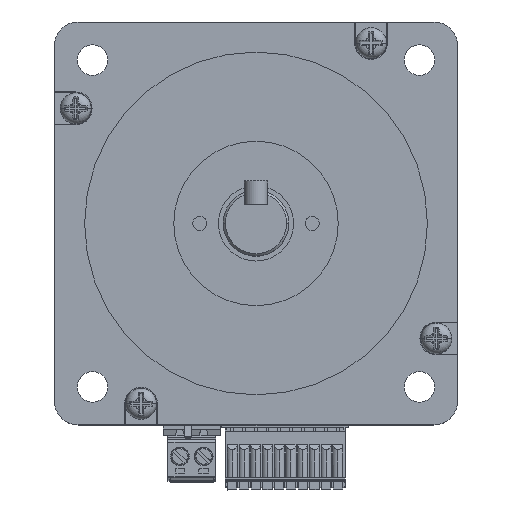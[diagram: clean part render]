
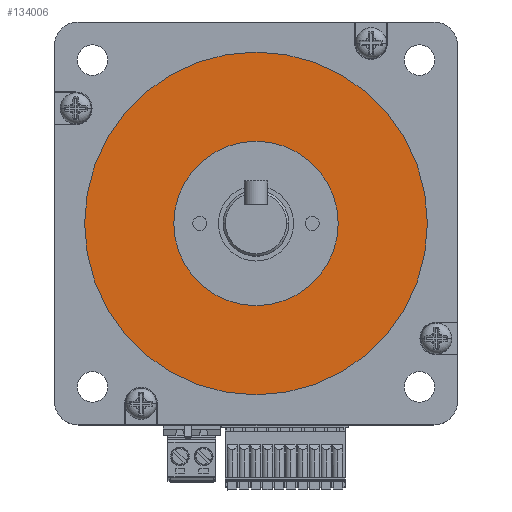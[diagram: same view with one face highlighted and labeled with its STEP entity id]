
A CAD part, top view. The second image highlights one B-rep face of the part: STEP entity #134006.
In plain terms, the highlighted planar face has unit normal (0, 0, 1).
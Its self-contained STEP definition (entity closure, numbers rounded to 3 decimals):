
#2081 = VERTEX_POINT ( 'NONE', #263754 ) ;
#5874 = CARTESIAN_POINT ( 'NONE',  ( -17.5, 0., 1.6 ) ) ;
#12258 = CARTESIAN_POINT ( 'NONE',  ( -36.5, 0., 1.6 ) ) ;
#13885 = CARTESIAN_POINT ( 'NONE',  ( 0., 0., 1.6 ) ) ;
#27235 = CARTESIAN_POINT ( 'NONE',  ( 0., 0., 1.6 ) ) ;
#30759 = DIRECTION ( 'NONE',  ( 0., 0., 1. ) ) ;
#58477 = CIRCLE ( 'NONE', #202591, 36.5 ) ;
#59473 = VERTEX_POINT ( 'NONE', #194635 ) ;
#69796 = DIRECTION ( 'NONE',  ( 1., 0., 0. ) ) ;
#73109 = FACE_BOUND ( 'NONE', #231149, .T. ) ;
#74671 = AXIS2_PLACEMENT_3D ( 'NONE', #229906, #30759, #143738 ) ;
#84104 = EDGE_CURVE ( 'NONE', #122735, #2081, #196358, .T. ) ;
#85500 = DIRECTION ( 'NONE',  ( 0., 0., 1. ) ) ;
#96514 = AXIS2_PLACEMENT_3D ( 'NONE', #248108, #146399, #104056 ) ;
#104056 = DIRECTION ( 'NONE',  ( 1., 0., 0. ) ) ;
#111423 = EDGE_CURVE ( 'NONE', #2081, #122735, #125412, .T. ) ;
#122735 = VERTEX_POINT ( 'NONE', #5874 ) ;
#125412 = CIRCLE ( 'NONE', #238337, 17.5 ) ;
#129719 = EDGE_LOOP ( 'NONE', ( #204720, #249272 ) ) ;
#134006 = ADVANCED_FACE ( 'NONE', ( #73109, #245304 ), #187327, .T. ) ;
#140958 = DIRECTION ( 'NONE',  ( 1., 0., 0. ) ) ;
#143738 = DIRECTION ( 'NONE',  ( 1., 0., 0. ) ) ;
#146399 = DIRECTION ( 'NONE',  ( 0., 0., 1. ) ) ;
#150229 = ORIENTED_EDGE ( 'NONE', *, *, #111423, .F. ) ;
#153426 = EDGE_CURVE ( 'NONE', #59473, #256425, #58477, .T. ) ;
#159979 = DIRECTION ( 'NONE',  ( 0., 0., 1. ) ) ;
#172912 = CARTESIAN_POINT ( 'NONE',  ( 0., 0., 1.6 ) ) ;
#180861 = ORIENTED_EDGE ( 'NONE', *, *, #84104, .F. ) ;
#187327 = PLANE ( 'NONE',  #96514 ) ;
#187522 = DIRECTION ( 'NONE',  ( 0., 0., 1. ) ) ;
#194635 = CARTESIAN_POINT ( 'NONE',  ( 36.5, 0., 1.6 ) ) ;
#196358 = CIRCLE ( 'NONE', #74671, 17.5 ) ;
#202591 = AXIS2_PLACEMENT_3D ( 'NONE', #27235, #159979, #247499 ) ;
#204720 = ORIENTED_EDGE ( 'NONE', *, *, #251548, .T. ) ;
#215566 = AXIS2_PLACEMENT_3D ( 'NONE', #172912, #85500, #69796 ) ;
#229906 = CARTESIAN_POINT ( 'NONE',  ( 0., 0., 1.6 ) ) ;
#231149 = EDGE_LOOP ( 'NONE', ( #150229, #180861 ) ) ;
#233730 = CIRCLE ( 'NONE', #215566, 36.5 ) ;
#238337 = AXIS2_PLACEMENT_3D ( 'NONE', #13885, #187522, #140958 ) ;
#245304 = FACE_OUTER_BOUND ( 'NONE', #129719, .T. ) ;
#247499 = DIRECTION ( 'NONE',  ( 1., 0., 0. ) ) ;
#248108 = CARTESIAN_POINT ( 'NONE',  ( 0., 0., 1.6 ) ) ;
#249272 = ORIENTED_EDGE ( 'NONE', *, *, #153426, .T. ) ;
#251548 = EDGE_CURVE ( 'NONE', #256425, #59473, #233730, .T. ) ;
#256425 = VERTEX_POINT ( 'NONE', #12258 ) ;
#263754 = CARTESIAN_POINT ( 'NONE',  ( 17.5, 0., 1.6 ) ) ;
